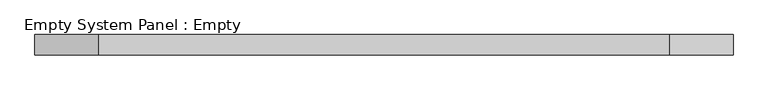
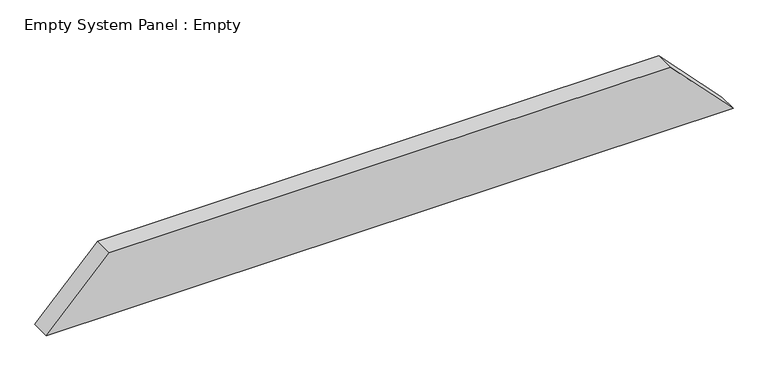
"""IFC4 building model written with IfcOpenShell, lengths in millimetres: plate geometry, Empty System Panel : Empty."""

from ifc_helpers import new_model, si_unit, frame, origin, place, context, project, spatial, polyline, outline, extrude, source, transform, mapped, element, save


def empty_system_panel_empty_65730d84(model_context):
    return source(origin(), model_context, "Body", "SweptSolid", [
        extrude(outline(polyline([(0.0, -1724.160709), (0.0, 1724.160709), (330.0, 1408.0780348), (330.0, -1408.0780348), (0.0, -1724.160709)])), frame((0.0, -50.0, 0.0), z_axis=(0.0, 1.0, 0.0), x_axis=(0.0, 0.0, 1.0)), (0.0, 0.0, 1.0), 100.0),
    ])


if __name__ == "__main__":
    model = new_model("IFC4")
    model_context = context("Model", 3, world=origin())
    ifc_project = project(units=[si_unit("LENGTHUNIT", "METRE", prefix="MILLI")], contexts=[model_context])
    site = spatial("IfcSite", under=ifc_project)
    building = spatial("IfcBuilding", under=site)
    placement = place(None, origin())
    empty_system_panel_empty_shape = empty_system_panel_empty_65730d84(model_context)
    element("IfcPlate", 1, ObjectType="Empty System Panel : Empty", at=placement, inside=building, context=model_context, shape_type="MappedRepresentation", body=[
        mapped(empty_system_panel_empty_shape, transform((0.0, 0.0, 0.0), x_axis=(1.0, 0.0, 0.0), y_axis=(0.0, 1.0, 0.0), z_axis=(0.0, 0.0, 1.0))),
    ])
    save(model, "model.ifc")
